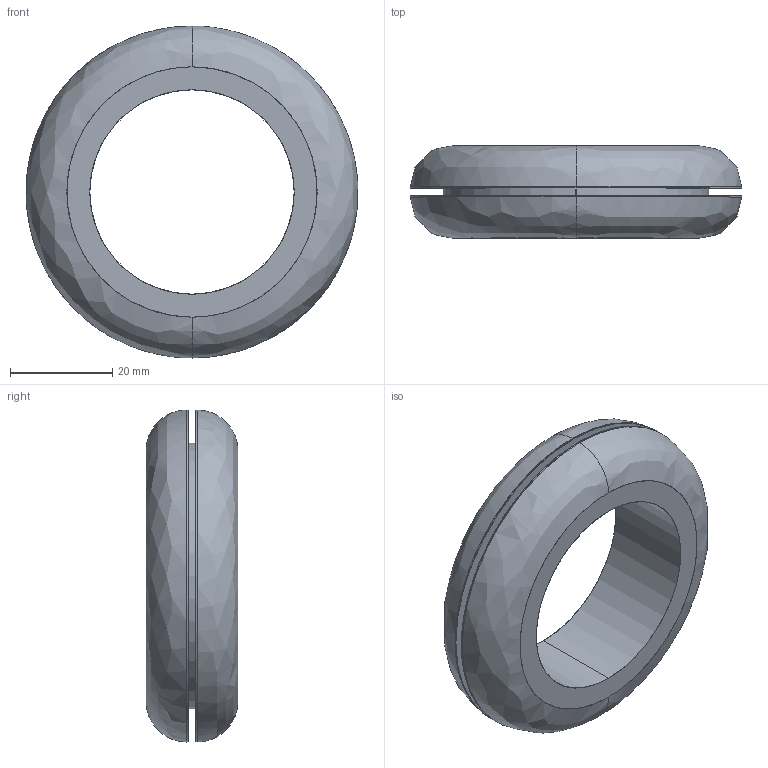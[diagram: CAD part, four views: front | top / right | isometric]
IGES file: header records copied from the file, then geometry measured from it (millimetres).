
Start section: SolidWorks IGES FILE using analytic representation for surfaces
Global section: file name: \\Ls-wvld1d\share\シブタニ\3D設計\ゴム\B-40-1.5\B-40-1.5.IGS; native system: SolidWorks 2003 by SolidWorks Corporation; preprocessor: Version 5.3; author: user; date: 130803.112710; units: millimetre
Bounding box: 65 x 18 x 65 mm (x, y, z)
Surface area: 10929.6 mm2 (no closed solid volume)
Topology: 0 solids, 0 shells, 16 faces, 560 edges, 560 vertices
Faces by surface type: bspline 8, revolution 8
